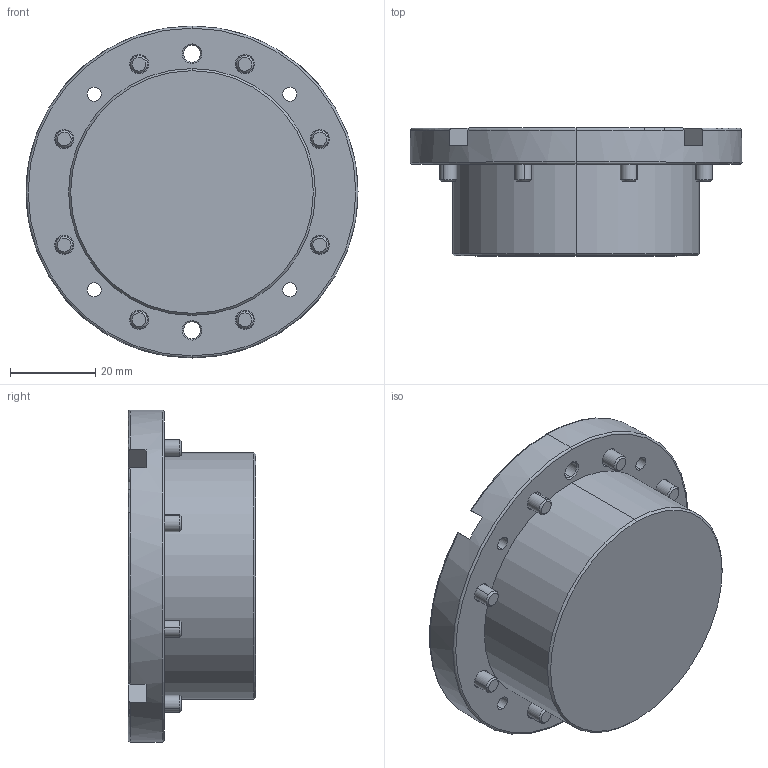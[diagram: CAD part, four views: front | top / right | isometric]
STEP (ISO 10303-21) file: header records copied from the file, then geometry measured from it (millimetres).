
FILE_DESCRIPTION (( 'STEP AP214' ), '1' );
FILE_NAME ('LQNCD-5.STEP', '2019-03-09T04:58:52', ( '' ), ( '' ), 'SwSTEP 2.0', 'SolidWorks 2018', '' );
FILE_SCHEMA (( 'AUTOMOTIVE_DESIGN' ));
Length unit declared in the file: millimetre
Products named in the file (1): LQNCD-5
Bounding box: 78 x 30 x 78 mm (x, y, z)
Volume: 90898 mm3; surface area: 20938.9 mm2
Topology: 11 solids, 11 shells, 376 faces, 840 edges, 499 vertices
Faces by surface type: plane 177, cylinder 96, cone 56, torus 47
Entity records: 14262 total; most frequent: DIRECTION 1958, CARTESIAN_POINT 1736, ORIENTED_EDGE 1640, EDGE_CURVE 820, AXIS2_PLACEMENT_3D 769, VERTEX_POINT 499, EDGE_LOOP 437, VECTOR 420
